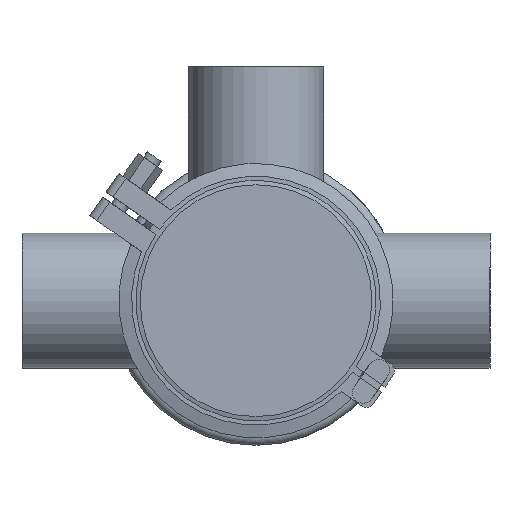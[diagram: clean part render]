
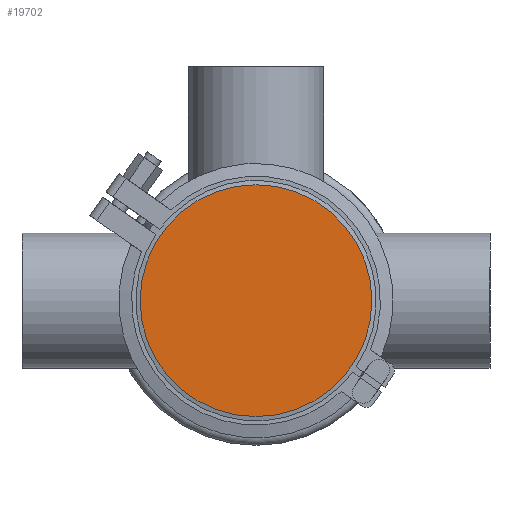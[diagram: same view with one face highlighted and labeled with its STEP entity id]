
A CAD part, front view. The second image highlights one B-rep face of the part: STEP entity #19702.
In plain terms, the highlighted planar face has unit normal (0, -1, 0).
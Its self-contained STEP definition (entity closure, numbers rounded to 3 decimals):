
#806 = AXIS2_PLACEMENT_3D ( 'NONE', #14294, #2682, #14406 ) ;
#1745 = ORIENTED_EDGE ( 'NONE', *, *, #19548, .F. ) ;
#2028 = DIRECTION ( 'NONE',  ( 0., -1., 0. ) ) ;
#2485 = EDGE_LOOP ( 'NONE', ( #1745 ) ) ;
#2682 = DIRECTION ( 'NONE',  ( 0., 1., 0. ) ) ;
#4075 = PLANE ( 'NONE',  #20533 ) ;
#5714 = CARTESIAN_POINT ( 'NONE',  ( -54.5, 0., 0. ) ) ;
#10477 = DIRECTION ( 'NONE',  ( 0., 0., -1. ) ) ;
#14294 = CARTESIAN_POINT ( 'NONE',  ( 0., 0., 0. ) ) ;
#14406 = DIRECTION ( 'NONE',  ( 0., 0., 1. ) ) ;
#16889 = FACE_OUTER_BOUND ( 'NONE', #2485, .T. ) ;
#17622 = CARTESIAN_POINT ( 'NONE',  ( 0., 0., 54.5 ) ) ;
#17834 = VERTEX_POINT ( 'NONE', #17622 ) ;
#18105 = CIRCLE ( 'NONE', #806, 54.5 ) ;
#19548 = EDGE_CURVE ( 'NONE', #17834, #17834, #18105, .T. ) ;
#19702 = ADVANCED_FACE ( 'NONE', ( #16889 ), #4075, .T. ) ;
#20533 = AXIS2_PLACEMENT_3D ( 'NONE', #5714, #2028, #10477 ) ;
